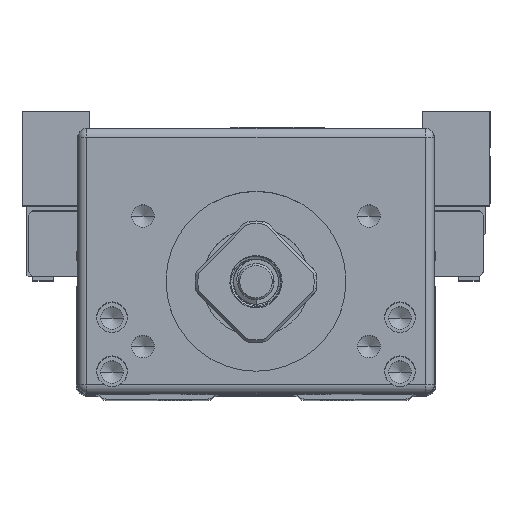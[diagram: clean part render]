
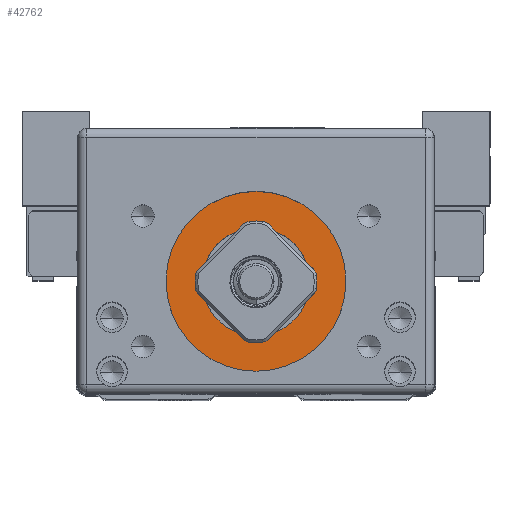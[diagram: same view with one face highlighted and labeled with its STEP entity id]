
A CAD part, top view. The second image highlights one B-rep face of the part: STEP entity #42762.
In plain terms, the highlighted planar face has unit normal (0, 0, 1).
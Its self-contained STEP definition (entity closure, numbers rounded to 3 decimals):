
#501 = LINE ( 'NONE', #25496, #27589 ) ;
#913 = CARTESIAN_POINT ( 'NONE',  ( -12., 29., 13. ) ) ;
#934 = EDGE_CURVE ( 'NONE', #10414, #41222, #42680, .T. ) ;
#1014 = CARTESIAN_POINT ( 'NONE',  ( 5.3, 1.5, 13. ) ) ;
#1087 = DIRECTION ( 'NONE',  ( -1., 0., 0. ) ) ;
#1570 = VECTOR ( 'NONE', #29133, 1000. ) ;
#1798 = DIRECTION ( 'NONE',  ( 1., 0., 0. ) ) ;
#2132 = CIRCLE ( 'NONE', #36020, 6. ) ;
#2599 = CARTESIAN_POINT ( 'NONE',  ( 0., 13., 13. ) ) ;
#2828 = CARTESIAN_POINT ( 'NONE',  ( -12., 24., 13. ) ) ;
#3609 = CIRCLE ( 'NONE', #19849, 6. ) ;
#4114 = ORIENTED_EDGE ( 'NONE', *, *, #15807, .T. ) ;
#4970 = VECTOR ( 'NONE', #30733, 1000. ) ;
#5913 = EDGE_CURVE ( 'NONE', #41451, #24592, #2132, .T. ) ;
#6137 = DIRECTION ( 'NONE',  ( 0.53, -0.848, 0. ) ) ;
#6474 = VERTEX_POINT ( 'NONE', #22961 ) ;
#6499 = VECTOR ( 'NONE', #36388, 1000. ) ;
#6610 = CARTESIAN_POINT ( 'NONE',  ( 12., 24., 13. ) ) ;
#7009 = VERTEX_POINT ( 'NONE', #39490 ) ;
#7183 = EDGE_CURVE ( 'NONE', #7009, #20886, #30243, .T. ) ;
#7491 = CARTESIAN_POINT ( 'NONE',  ( 7.599, 6.5, 13. ) ) ;
#7772 = CARTESIAN_POINT ( 'NONE',  ( 11.8, 24., 13. ) ) ;
#7932 = CARTESIAN_POINT ( 'NONE',  ( -5.3, 1.5, 13. ) ) ;
#8968 = CARTESIAN_POINT ( 'NONE',  ( -12., 29., 13. ) ) ;
#9562 = CARTESIAN_POINT ( 'NONE',  ( -11.8, 24., 13. ) ) ;
#9985 = EDGE_CURVE ( 'NONE', #24592, #41451, #3609, .T. ) ;
#10414 = VERTEX_POINT ( 'NONE', #6610 ) ;
#10695 = CARTESIAN_POINT ( 'NONE',  ( 0., 13., 13. ) ) ;
#10931 = CARTESIAN_POINT ( 'NONE',  ( 11.8, 6.5, 13. ) ) ;
#10966 = LINE ( 'NONE', #7932, #1570 ) ;
#11592 = CARTESIAN_POINT ( 'NONE',  ( -19.8, 24., 13. ) ) ;
#12017 = EDGE_CURVE ( 'NONE', #44549, #35262, #38788, .T. ) ;
#13763 = CARTESIAN_POINT ( 'NONE',  ( -12., 29., 13. ) ) ;
#13910 = CARTESIAN_POINT ( 'NONE',  ( 5.3, 1.5, 13. ) ) ;
#14096 = LINE ( 'NONE', #33217, #21272 ) ;
#14254 = DIRECTION ( 'NONE',  ( -0.76, -0.65, 0. ) ) ;
#15641 = VERTEX_POINT ( 'NONE', #13910 ) ;
#15807 = EDGE_CURVE ( 'NONE', #15641, #7009, #501, .T. ) ;
#16604 = EDGE_CURVE ( 'NONE', #37892, #6474, #43312, .T. ) ;
#16665 = VECTOR ( 'NONE', #27857, 1000. ) ;
#18711 = DIRECTION ( 'NONE',  ( 0., 0., -1. ) ) ;
#18879 = DIRECTION ( 'NONE',  ( -1., 0., 0. ) ) ;
#19176 = EDGE_CURVE ( 'NONE', #35262, #10414, #34410, .T. ) ;
#19485 = DIRECTION ( 'NONE',  ( 0., 0., -1. ) ) ;
#19592 = ORIENTED_EDGE ( 'NONE', *, *, #34688, .F. ) ;
#19849 = AXIS2_PLACEMENT_3D ( 'NONE', #43361, #22251, #1087 ) ;
#20107 = ORIENTED_EDGE ( 'NONE', *, *, #33569, .T. ) ;
#20433 = CARTESIAN_POINT ( 'NONE',  ( 11.8, 6.5, 13. ) ) ;
#20582 = VERTEX_POINT ( 'NONE', #34082 ) ;
#20726 = CARTESIAN_POINT ( 'NONE',  ( -11.8, 24., 13. ) ) ;
#20886 = VERTEX_POINT ( 'NONE', #7491 ) ;
#21272 = VECTOR ( 'NONE', #36775, 1000. ) ;
#21439 = ORIENTED_EDGE ( 'NONE', *, *, #32147, .F. ) ;
#21515 = DIRECTION ( 'NONE',  ( 0., 1., 0. ) ) ;
#21803 = ORIENTED_EDGE ( 'NONE', *, *, #30329, .T. ) ;
#22108 = VERTEX_POINT ( 'NONE', #22512 ) ;
#22251 = DIRECTION ( 'NONE',  ( 0., 0., -1. ) ) ;
#22512 = CARTESIAN_POINT ( 'NONE',  ( -5.3, 1.5, 13. ) ) ;
#22542 = CARTESIAN_POINT ( 'NONE',  ( 12., 29., 13. ) ) ;
#22697 = FACE_BOUND ( 'NONE', #29476, .T. ) ;
#22961 = CARTESIAN_POINT ( 'NONE',  ( -5.3, 4.52, 13. ) ) ;
#23094 = LINE ( 'NONE', #20433, #32487 ) ;
#24547 = EDGE_CURVE ( 'NONE', #44549, #36669, #37906, .T. ) ;
#24592 = VERTEX_POINT ( 'NONE', #38589 ) ;
#24872 = ORIENTED_EDGE ( 'NONE', *, *, #9985, .T. ) ;
#25496 = CARTESIAN_POINT ( 'NONE',  ( 5.3, 1.5, 13. ) ) ;
#26241 = AXIS2_PLACEMENT_3D ( 'NONE', #10695, #35411, #14254 ) ;
#26532 = CARTESIAN_POINT ( 'NONE',  ( -11.8, 6.5, 13. ) ) ;
#27106 = EDGE_CURVE ( 'NONE', #32767, #41222, #23094, .T. ) ;
#27191 = LINE ( 'NONE', #20726, #16665 ) ;
#27332 = DIRECTION ( 'NONE',  ( 0., 0., 1. ) ) ;
#27438 = VECTOR ( 'NONE', #41959, 1000. ) ;
#27589 = VECTOR ( 'NONE', #39638, 1000. ) ;
#27857 = DIRECTION ( 'NONE',  ( -1., 0., 0. ) ) ;
#28680 = AXIS2_PLACEMENT_3D ( 'NONE', #2599, #27332, #6137 ) ;
#28924 = CARTESIAN_POINT ( 'NONE',  ( 12., 29., 13. ) ) ;
#28969 = VECTOR ( 'NONE', #1798, 1000. ) ;
#29133 = DIRECTION ( 'NONE',  ( 0., 1., 0. ) ) ;
#29230 = PLANE ( 'NONE',  #37594 ) ;
#29476 = EDGE_LOOP ( 'NONE', ( #33291, #24872 ) ) ;
#30243 = CIRCLE ( 'NONE', #28680, 10. ) ;
#30329 = EDGE_CURVE ( 'NONE', #31649, #37892, #38312, .T. ) ;
#30493 = ORIENTED_EDGE ( 'NONE', *, *, #934, .F. ) ;
#30528 = VECTOR ( 'NONE', #33685, 1000. ) ;
#30724 = ORIENTED_EDGE ( 'NONE', *, *, #27106, .T. ) ;
#30733 = DIRECTION ( 'NONE',  ( 0., -1., 0. ) ) ;
#31602 = ORIENTED_EDGE ( 'NONE', *, *, #24547, .T. ) ;
#31649 = VERTEX_POINT ( 'NONE', #44985 ) ;
#32015 = ORIENTED_EDGE ( 'NONE', *, *, #19176, .F. ) ;
#32045 = LINE ( 'NONE', #9562, #4970 ) ;
#32084 = FACE_OUTER_BOUND ( 'NONE', #34219, .T. ) ;
#32147 = EDGE_CURVE ( 'NONE', #20582, #36669, #27191, .T. ) ;
#32487 = VECTOR ( 'NONE', #21515, 1000. ) ;
#32524 = ORIENTED_EDGE ( 'NONE', *, *, #12017, .F. ) ;
#32767 = VERTEX_POINT ( 'NONE', #10931 ) ;
#32950 = CARTESIAN_POINT ( 'NONE',  ( 12., 24., 13. ) ) ;
#33217 = CARTESIAN_POINT ( 'NONE',  ( 7.599, 6.5, 13. ) ) ;
#33291 = ORIENTED_EDGE ( 'NONE', *, *, #5913, .T. ) ;
#33335 = VECTOR ( 'NONE', #18879, 1000. ) ;
#33564 = CARTESIAN_POINT ( 'NONE',  ( 6., 13., 13. ) ) ;
#33569 = EDGE_CURVE ( 'NONE', #20582, #31649, #32045, .T. ) ;
#33685 = DIRECTION ( 'NONE',  ( 1., 0., 0. ) ) ;
#34082 = CARTESIAN_POINT ( 'NONE',  ( -11.8, 24., 13. ) ) ;
#34219 = EDGE_LOOP ( 'NONE', ( #21803, #44102, #19592, #38278, #4114, #45162, #40528, #30724, #30493, #32015, #32524, #31602, #21439, #20107 ) ) ;
#34410 = LINE ( 'NONE', #22542, #42651 ) ;
#34688 = EDGE_CURVE ( 'NONE', #22108, #6474, #10966, .T. ) ;
#35262 = VERTEX_POINT ( 'NONE', #28924 ) ;
#35411 = DIRECTION ( 'NONE',  ( 0., 0., 1. ) ) ;
#35807 = LINE ( 'NONE', #1014, #6499 ) ;
#36020 = AXIS2_PLACEMENT_3D ( 'NONE', #40610, #19485, #44139 ) ;
#36388 = DIRECTION ( 'NONE',  ( -1., 0., 0. ) ) ;
#36481 = EDGE_CURVE ( 'NONE', #15641, #22108, #35807, .T. ) ;
#36669 = VERTEX_POINT ( 'NONE', #2828 ) ;
#36775 = DIRECTION ( 'NONE',  ( 1., 0., 0. ) ) ;
#37594 = AXIS2_PLACEMENT_3D ( 'NONE', #11592, #18711, #43381 ) ;
#37892 = VERTEX_POINT ( 'NONE', #39149 ) ;
#37906 = LINE ( 'NONE', #13763, #27438 ) ;
#38278 = ORIENTED_EDGE ( 'NONE', *, *, #36481, .F. ) ;
#38312 = LINE ( 'NONE', #26532, #28969 ) ;
#38589 = CARTESIAN_POINT ( 'NONE',  ( -6., 13., 13. ) ) ;
#38788 = LINE ( 'NONE', #8968, #30528 ) ;
#39049 = EDGE_CURVE ( 'NONE', #20886, #32767, #14096, .T. ) ;
#39149 = CARTESIAN_POINT ( 'NONE',  ( -7.599, 6.5, 13. ) ) ;
#39490 = CARTESIAN_POINT ( 'NONE',  ( 5.3, 4.52, 13. ) ) ;
#39638 = DIRECTION ( 'NONE',  ( 0., 1., 0. ) ) ;
#40528 = ORIENTED_EDGE ( 'NONE', *, *, #39049, .T. ) ;
#40610 = CARTESIAN_POINT ( 'NONE',  ( 0., 13., 13. ) ) ;
#41222 = VERTEX_POINT ( 'NONE', #7772 ) ;
#41451 = VERTEX_POINT ( 'NONE', #33564 ) ;
#41959 = DIRECTION ( 'NONE',  ( 0., -1., 0. ) ) ;
#42651 = VECTOR ( 'NONE', #43638, 1000. ) ;
#42680 = LINE ( 'NONE', #32950, #33335 ) ;
#42762 = ADVANCED_FACE ( 'NONE', ( #22697, #32084 ), #29230, .F. ) ;
#43312 = CIRCLE ( 'NONE', #26241, 10. ) ;
#43361 = CARTESIAN_POINT ( 'NONE',  ( 0., 13., 13. ) ) ;
#43381 = DIRECTION ( 'NONE',  ( 0., -1., 0. ) ) ;
#43638 = DIRECTION ( 'NONE',  ( 0., -1., 0. ) ) ;
#44102 = ORIENTED_EDGE ( 'NONE', *, *, #16604, .T. ) ;
#44139 = DIRECTION ( 'NONE',  ( 1., 0., 0. ) ) ;
#44549 = VERTEX_POINT ( 'NONE', #913 ) ;
#44985 = CARTESIAN_POINT ( 'NONE',  ( -11.8, 6.5, 13. ) ) ;
#45162 = ORIENTED_EDGE ( 'NONE', *, *, #7183, .T. ) ;
